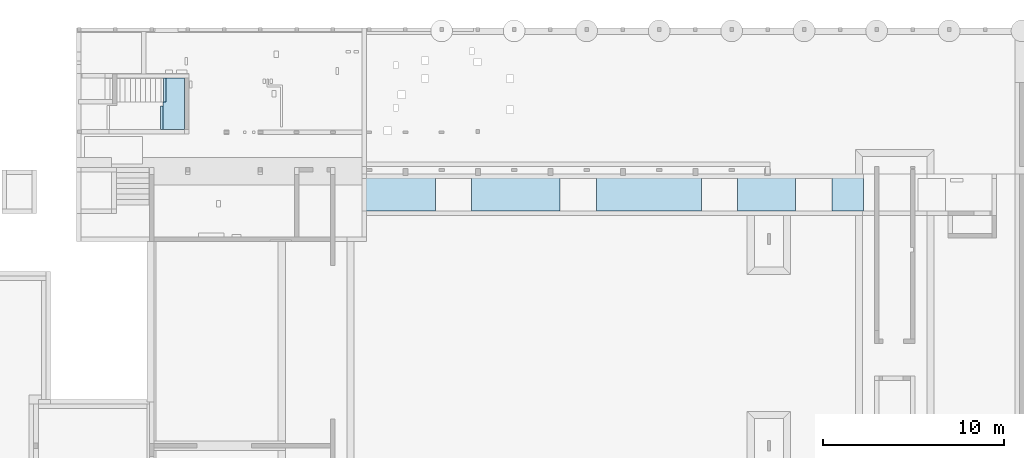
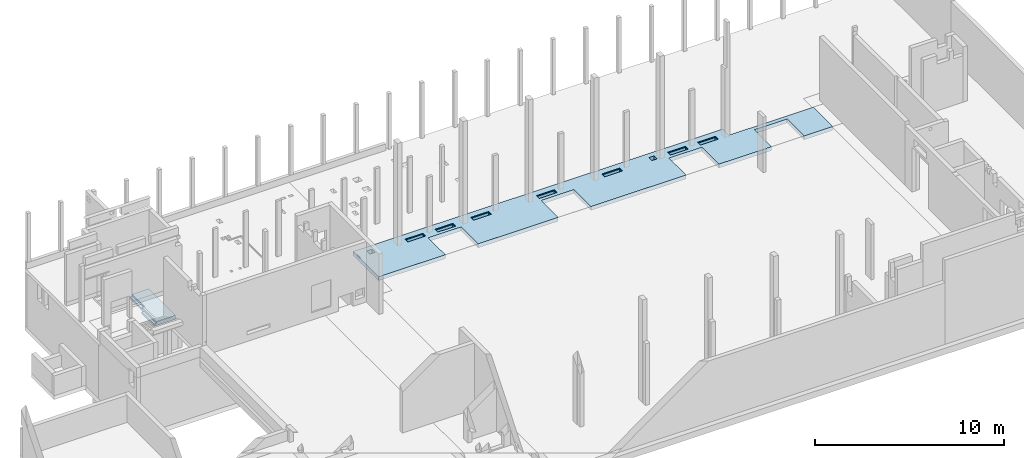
# One storey, part 11 of 12: 2 slabs, 24 openings.
"""IFC2X3 building model written with IfcOpenShell, lengths in metres."""

from ifc_helpers import new_model, entity, si_unit, converted_unit, direction, frame, frame_2d, origin, origin_2d_with_axis, place, context, subcontext, project, spatial, rectangle, extrude, faceted_brep, material, layer, layer_set, type_object, element, save


model = new_model("IFC2X3")

# Units and contexts
model_context = context("Model", 3, precision=1e-05, world=frame((30.086303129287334, 2.687674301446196, 462.0)), true_north=direction((0.19008937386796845, 0.9817667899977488)))
body_context = subcontext(model_context, "Body", "Model", "MODEL_VIEW")
ifc_project = project(units=[si_unit("LENGTHUNIT", "METRE"), si_unit("AREAUNIT", "SQUARE_METRE"), converted_unit("PLANEANGLEUNIT", "DEGREE", entity("IfcPlaneAngleMeasure", 0.017453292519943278), si_unit("PLANEANGLEUNIT", "RADIAN"), dimensions=[0, 0, 0, 0, 0, 0, 0]), si_unit("VOLUMEUNIT", "CUBIC_METRE")], contexts=[model_context])

# Site, building, storey
site_placement = place(None, origin())
site = spatial("IfcSite", under=ifc_project, at=site_placement, Name="Default", CompositionType="ELEMENT")
building_placement = place(site_placement, origin())
building = spatial("IfcBuilding", under=site, at=building_placement, CompositionType="ELEMENT")
storey_placement = place(building_placement, frame((0.0, 0.0, -3.800000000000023)))
storey = spatial("IfcBuildingStorey", under=building, at=storey_placement, Name="FB_U01_OKFB", CompositionType="ELEMENT", Elevation=-3.800000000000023)

# Slab, openings
ifc_material = material(Name="WS_CONCRETE_REINFORCED")
ifc_layer = layer(ifc_material, 0.24999999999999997)
ifc_layer_set = layer_set([ifc_layer], Name="Geschossdecke:WS_SLB_CON_250")
slab_type = type_object("IfcSlabType", Name="Geschossdecke:WS_SLB_CON_250", PredefinedType="FLOOR", material=ifc_layer_set)
slab_1_placement = place(storey_placement, origin())
slab_1 = element("IfcSlab", 1, at=slab_1_placement, inside=storey, type_object=slab_type, material=ifc_material, Name="Geschossdecke:WS_SLB_CON_250", ObjectType="Geschossdecke:WS_SLB_CON_250", PredefinedType="FLOOR", context=body_context, shape_type="Brep", body=[
    faceted_brep([(61.705338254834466, -3.5796103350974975, 3.4300000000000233), (61.705338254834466, -1.548227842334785, 3.4300000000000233), (61.705338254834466, -1.3282278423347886, 3.4300000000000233), (61.705338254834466, -0.8796477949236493, 3.4300000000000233), (61.955337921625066, -0.8796477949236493, 3.4300000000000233), (84.23033826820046, -0.8796477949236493, 3.4300000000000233), (84.23033826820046, -1.1296477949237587, 3.4300000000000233), (84.23033826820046, -1.5296477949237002, 3.4300000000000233), (89.33033721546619, -1.5296477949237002, 3.4300000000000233), (89.3803372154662, -1.5296477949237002, 3.4300000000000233), (89.3803372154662, -3.579610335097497, 3.4300000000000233), (89.33033721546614, -3.579610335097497, 3.4300000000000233), (87.64533728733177, -3.579610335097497, 3.4300000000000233), (87.64533728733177, -1.7795710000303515, 3.4300000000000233), (85.64533728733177, -1.7795710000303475, 3.4300000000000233), (85.64533728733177, -3.579610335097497, 3.4300000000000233), (82.44533919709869, -3.579610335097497, 3.4300000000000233), (82.44533919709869, -1.7795710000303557, 3.4300000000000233), (80.44533919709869, -1.7795710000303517, 3.4300000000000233), (80.44533919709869, -3.579610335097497, 3.4300000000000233), (74.64533728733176, -3.579610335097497, 3.4300000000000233), (74.64533728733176, -1.7795710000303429, 3.4300000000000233), (72.64533728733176, -1.7795710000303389, 3.4300000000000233), (72.64533728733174, -3.579610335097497, 3.4300000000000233), (67.76533919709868, -3.579610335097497, 3.4300000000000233), (67.76533919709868, -1.7795710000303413, 3.4300000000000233), (65.76533919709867, -1.779571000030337, 3.4300000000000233), (65.76533919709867, -3.579610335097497, 3.4300000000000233), (62.35533879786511, -1.2095653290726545, 3.4300000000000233), (62.35533879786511, -1.5295653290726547, 3.4300000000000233), (62.67533879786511, -1.5295653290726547, 3.4300000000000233), (62.67533879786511, -1.2095653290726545, 3.4300000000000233), (64.68533996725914, -1.309607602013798, 3.4300000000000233), (64.68533996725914, -1.5296076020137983, 3.4300000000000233), (65.70533996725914, -1.5296076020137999, 3.4300000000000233), (65.70533996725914, -1.3096076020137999, 3.4300000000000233), (66.5053331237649, -1.3096076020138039, 3.4300000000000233), (66.5053331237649, -1.5296076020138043, 3.4300000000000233), (67.5253331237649, -1.5296076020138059, 3.4300000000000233), (67.5253331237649, -1.3096076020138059, 3.4300000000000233), (68.68533442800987, -1.309607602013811, 3.4300000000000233), (68.68533442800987, -1.5296076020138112, 3.4300000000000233), (69.70533442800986, -1.529607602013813, 3.4300000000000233), (69.70533442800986, -1.3096076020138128, 3.4300000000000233), (72.68534044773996, -1.3096076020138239, 3.4300000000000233), (72.68534044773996, -1.5296076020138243, 3.4300000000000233), (73.70534044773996, -1.5296076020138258, 3.4300000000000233), (73.70534044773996, -1.3096076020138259, 3.4300000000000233), (80.6848489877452, -1.3096477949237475, 3.4300000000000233), (80.6848489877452, -1.5296477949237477, 3.4300000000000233), (81.70484898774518, -1.5296477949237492, 3.4300000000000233), (81.70484898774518, -1.3096477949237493, 3.4300000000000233), (82.50533312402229, -1.3096477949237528, 3.4300000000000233), (82.50533312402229, -1.5296477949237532, 3.4300000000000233), (83.52533312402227, -1.5296477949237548, 3.4300000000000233), (83.52533312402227, -1.3096477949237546, 3.4300000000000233), (79.53533854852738, -1.209574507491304, 3.4300000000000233), (79.53533854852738, -1.5295745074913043, 3.4300000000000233), (79.85533854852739, -1.5295745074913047, 3.4300000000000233), (79.85533854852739, -1.2095745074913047, 3.4300000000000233), (76.68534019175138, -1.309607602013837, 3.4300000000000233), (76.68534019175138, -1.5296076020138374, 3.4300000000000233), (77.70534019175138, -1.529607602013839, 3.4300000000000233), (77.70534019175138, -1.3096076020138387, 3.4300000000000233), (89.3803372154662, -3.579610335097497, 3.6800000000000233), (89.3803372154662, -1.5296477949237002, 3.6800000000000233), (89.33033721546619, -1.5296477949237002, 3.6800000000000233), (84.23033826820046, -1.5296477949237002, 3.6800000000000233), (84.23033826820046, -0.8796477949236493, 3.6800000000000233), (61.955337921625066, -0.8796477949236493, 3.6800000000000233), (61.705338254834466, -0.8796477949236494, 3.6800000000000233), (61.705338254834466, -1.2882278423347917, 3.6800000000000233), (61.745338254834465, -1.2882278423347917, 3.6800000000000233), (61.745338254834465, -1.5882278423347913, 3.6800000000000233), (61.705338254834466, -1.5882278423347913, 3.6800000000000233), (61.705338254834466, -3.5796103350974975, 3.6800000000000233), (65.76533919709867, -3.5796103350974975, 3.6800000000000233), (65.76533919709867, -1.7795710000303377, 3.6800000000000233), (67.76533919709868, -1.7795710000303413, 3.6800000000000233), (67.76533919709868, -3.579610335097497, 3.6800000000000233), (72.64533728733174, -3.579610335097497, 3.6800000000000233), (72.64533728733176, -1.7795710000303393, 3.6800000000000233), (74.64533728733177, -1.7795710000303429, 3.6800000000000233), (74.64533728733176, -3.579610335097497, 3.6800000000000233), (80.44533919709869, -3.579610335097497, 3.6800000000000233), (80.44533919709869, -1.7795710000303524, 3.6800000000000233), (82.44533919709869, -1.7795710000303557, 3.6800000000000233), (82.44533919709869, -3.579610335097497, 3.6800000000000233), (85.64533728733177, -3.579610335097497, 3.6800000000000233), (85.64533728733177, -1.779571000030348, 3.6800000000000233), (87.64533728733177, -1.7795710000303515, 3.6800000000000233), (87.64533728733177, -3.579610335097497, 3.6800000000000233), (89.33033721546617, -3.579610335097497, 3.6800000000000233), (62.35533879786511, -1.5295653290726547, 3.6800000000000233), (62.35533879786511, -1.2095653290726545, 3.6800000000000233), (62.67533879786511, -1.2095653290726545, 3.6800000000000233), (62.67533879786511, -1.5295653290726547, 3.6800000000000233), (79.53533854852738, -1.5295745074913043, 3.6800000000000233), (79.53533854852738, -1.2095745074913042, 3.6800000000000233), (79.85533854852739, -1.2095745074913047, 3.6800000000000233), (79.85533854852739, -1.5295745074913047, 3.6800000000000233), (72.64534044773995, -1.2696076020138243, 3.6800000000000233), (73.74534044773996, -1.2696076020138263, 3.6800000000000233), (73.74534044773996, -1.5696076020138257, 3.6800000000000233), (72.64534044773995, -1.5696076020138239, 3.6800000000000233), (68.64533442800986, -1.2696076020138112, 3.6800000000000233), (69.74533442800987, -1.2696076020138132, 3.6800000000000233), (69.74533442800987, -1.569607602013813, 3.6800000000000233), (68.64533442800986, -1.5696076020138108, 3.6800000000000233), (64.64533996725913, -1.2696076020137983, 3.6800000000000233), (65.74533996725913, -1.2696076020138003, 3.6800000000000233), (65.74533996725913, -1.5696076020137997, 3.6800000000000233), (64.64533996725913, -1.569607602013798, 3.6800000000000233), (66.46533312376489, -1.2696076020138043, 3.6800000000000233), (67.5653331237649, -1.2696076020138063, 3.6800000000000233), (67.5653331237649, -1.5696076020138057, 3.6800000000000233), (66.46533312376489, -1.569607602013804, 3.6800000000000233), (82.4653331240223, -1.2696477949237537, 3.6800000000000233), (83.56533312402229, -1.2696477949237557, 3.6800000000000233), (83.56533312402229, -1.5696477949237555, 3.6800000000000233), (82.4653331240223, -1.5696477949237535, 3.6800000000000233), (80.6448489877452, -1.2696477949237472, 3.6800000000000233), (81.74484898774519, -1.2696477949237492, 3.6800000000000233), (81.74484898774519, -1.5696477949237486, 3.6800000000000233), (80.6448489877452, -1.5696477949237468, 3.6800000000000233), (76.64534019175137, -1.2696076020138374, 3.6800000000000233), (77.74534019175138, -1.2696076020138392, 3.6800000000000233), (77.74534019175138, -1.5696076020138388, 3.6800000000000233), (76.64534019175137, -1.5696076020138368, 3.6800000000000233), (61.705338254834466, -1.5882278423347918, 3.639999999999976), (61.705338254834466, -1.5482278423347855, 3.639999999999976), (61.705338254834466, -1.328227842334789, 3.639999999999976), (61.705338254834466, -1.2882278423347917, 3.639999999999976), (64.68533996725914, -1.3096076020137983, 3.639999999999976), (64.68533996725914, -1.5296076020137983, 3.639999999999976), (65.70533996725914, -1.5296076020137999, 3.639999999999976), (65.70533996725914, -1.3096076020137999, 3.639999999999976), (66.5053331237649, -1.309607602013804, 3.639999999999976), (66.5053331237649, -1.5296076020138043, 3.639999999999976), (67.5253331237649, -1.5296076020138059, 3.639999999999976), (67.5253331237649, -1.3096076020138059, 3.639999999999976), (68.68533442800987, -1.3096076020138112, 3.639999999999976), (68.68533442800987, -1.5296076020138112, 3.639999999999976), (69.70533442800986, -1.529607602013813, 3.639999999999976), (69.70533442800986, -1.3096076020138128, 3.639999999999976), (72.68534044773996, -1.3096076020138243, 3.639999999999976), (72.68534044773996, -1.5296076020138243, 3.639999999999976), (73.70534044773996, -1.5296076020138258, 3.639999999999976), (73.70534044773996, -1.3096076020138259, 3.639999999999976), (80.6848489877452, -1.3096477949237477, 3.639999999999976), (80.6848489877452, -1.5296477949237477, 3.639999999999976), (81.70484898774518, -1.5296477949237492, 3.639999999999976), (81.70484898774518, -1.3096477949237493, 3.639999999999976), (82.50533312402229, -1.309647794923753, 3.639999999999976), (82.50533312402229, -1.5296477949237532, 3.639999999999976), (83.52533312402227, -1.5296477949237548, 3.639999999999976), (83.52533312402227, -1.3096477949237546, 3.639999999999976), (73.74534044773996, -1.2696076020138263, 3.639999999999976), (72.64534044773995, -1.2696076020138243, 3.639999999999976), (72.64534044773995, -1.569607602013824, 3.639999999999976), (73.74534044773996, -1.5696076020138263, 3.639999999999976), (69.74533442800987, -1.2696076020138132, 3.639999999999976), (68.64533442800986, -1.2696076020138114, 3.639999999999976), (68.64533442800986, -1.5696076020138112, 3.639999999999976), (69.74533442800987, -1.5696076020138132, 3.639999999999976), (65.74533996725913, -1.2696076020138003, 3.639999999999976), (64.64533996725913, -1.2696076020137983, 3.639999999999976), (64.64533996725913, -1.5696076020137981, 3.639999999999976), (65.74533996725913, -1.5696076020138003, 3.639999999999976), (67.5653331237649, -1.2696076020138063, 3.639999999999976), (66.46533312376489, -1.2696076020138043, 3.639999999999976), (66.46533312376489, -1.5696076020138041, 3.639999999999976), (67.5653331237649, -1.5696076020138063, 3.639999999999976), (83.56533312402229, -1.2696477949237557, 3.639999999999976), (82.4653331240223, -1.2696477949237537, 3.639999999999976), (82.4653331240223, -1.5696477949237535, 3.639999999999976), (83.56533312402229, -1.5696477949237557, 3.639999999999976), (81.74484898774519, -1.2696477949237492, 3.639999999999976), (80.6448489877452, -1.2696477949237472, 3.639999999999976), (80.6448489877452, -1.569647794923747, 3.639999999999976), (81.74484898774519, -1.5696477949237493, 3.639999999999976), (77.74534019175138, -1.2696076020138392, 3.639999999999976), (76.64534019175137, -1.2696076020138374, 3.639999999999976), (76.64534019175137, -1.5696076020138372, 3.639999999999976), (77.74534019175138, -1.5696076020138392, 3.639999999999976), (76.68534019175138, -1.5296076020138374, 3.639999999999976), (76.68534019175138, -1.309607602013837, 3.639999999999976), (77.70534019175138, -1.3096076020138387, 3.639999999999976), (77.70534019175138, -1.5296076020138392, 3.639999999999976), (61.745338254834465, -1.5882278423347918, 3.639999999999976), (61.745338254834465, -1.2882278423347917, 3.639999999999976)], [[[0, 1, 2, 3, 4, 5, 6, 7, 8, 9, 10, 11, 12, 13, 14, 15, 16, 17, 18, 19, 20, 21, 22, 23, 24, 25, 26, 27], [28, 29, 30, 31], [32, 33, 34, 35], [36, 37, 38, 39], [40, 41, 42, 43], [44, 45, 46, 47], [48, 49, 50, 51], [52, 53, 54, 55], [56, 57, 58, 59], [60, 61, 62, 63]], [[64, 65, 66, 67, 68, 69, 70, 71, 72, 73, 74, 75, 76, 77, 78, 79, 80, 81, 82, 83, 84, 85, 86, 87, 88, 89, 90, 91, 92], [93, 94, 95, 96], [97, 98, 99, 100], [101, 102, 103, 104], [105, 106, 107, 108], [109, 110, 111, 112], [113, 114, 115, 116], [117, 118, 119, 120], [121, 122, 123, 124], [125, 126, 127, 128]], [[3, 2, 1, 0, 75, 74, 129, 130, 131, 132, 71, 70]], [[3, 70, 69, 68, 5, 4]], [[10, 9, 65, 64]], [[7, 6, 5, 68, 67]], [[9, 8, 7, 67, 66, 65]], [[16, 15, 88, 87]], [[14, 89, 88, 15]], [[90, 13, 12, 91]], [[89, 14, 13, 90]], [[18, 85, 84, 19]], [[86, 17, 16, 87]], [[85, 18, 17, 86]], [[22, 81, 80, 23]], [[82, 21, 20, 83]], [[81, 22, 21, 82]], [[26, 77, 76, 27]], [[78, 25, 24, 79]], [[77, 26, 25, 78]], [[94, 28, 31, 95]], [[28, 94, 93, 29]], [[29, 93, 96, 30]], [[95, 31, 30, 96]], [[33, 32, 133, 134]], [[34, 33, 134, 135]], [[35, 34, 135, 136]], [[32, 35, 136, 133]], [[37, 36, 137, 138]], [[38, 37, 138, 139]], [[39, 38, 139, 140]], [[36, 39, 140, 137]], [[41, 40, 141, 142]], [[42, 41, 142, 143]], [[43, 42, 143, 144]], [[40, 43, 144, 141]], [[45, 44, 145, 146]], [[46, 45, 146, 147]], [[47, 46, 147, 148]], [[44, 47, 148, 145]], [[49, 48, 149, 150]], [[50, 49, 150, 151]], [[51, 50, 151, 152]], [[48, 51, 152, 149]], [[53, 52, 153, 154]], [[54, 53, 154, 155]], [[55, 54, 155, 156]], [[52, 55, 156, 153]], [[97, 57, 56, 98]], [[57, 97, 100, 58]], [[58, 100, 99, 59]], [[98, 56, 59, 99]], [[157, 158, 159, 160], [146, 145, 148, 147]], [[158, 157, 102, 101]], [[159, 158, 101, 104]], [[160, 159, 104, 103]], [[157, 160, 103, 102]], [[161, 162, 163, 164], [142, 141, 144, 143]], [[162, 161, 106, 105]], [[163, 162, 105, 108]], [[164, 163, 108, 107]], [[161, 164, 107, 106]], [[165, 166, 167, 168], [134, 133, 136, 135]], [[166, 165, 110, 109]], [[167, 166, 109, 112]], [[168, 167, 112, 111]], [[165, 168, 111, 110]], [[169, 170, 171, 172], [138, 137, 140, 139]], [[170, 169, 114, 113]], [[171, 170, 113, 116]], [[172, 171, 116, 115]], [[169, 172, 115, 114]], [[173, 174, 175, 176], [154, 153, 156, 155]], [[174, 173, 118, 117]], [[175, 174, 117, 120]], [[176, 175, 120, 119]], [[173, 176, 119, 118]], [[177, 178, 179, 180], [152, 151, 150, 149]], [[178, 177, 122, 121]], [[179, 178, 121, 124]], [[180, 179, 124, 123]], [[177, 180, 123, 122]], [[181, 182, 183, 184], [185, 186, 187, 188]], [[182, 181, 126, 125]], [[183, 182, 125, 128]], [[184, 183, 128, 127]], [[181, 184, 127, 126]], [[60, 186, 185, 61]], [[61, 185, 188, 62]], [[62, 188, 187, 63]], [[186, 60, 63, 187]], [[189, 190, 132, 131, 130, 129]], [[190, 72, 71, 132]], [[73, 189, 129, 74]], [[190, 189, 73, 72]], [[20, 19, 84, 83]], [[24, 23, 80, 79]], [[75, 0, 27, 76]], [[10, 64, 92, 91, 12, 11]]]),
])
opening_1_placement = place(slab_1_placement, origin())
element("IfcOpeningElement", 2, at=opening_1_placement, cuts=slab_1, Name="Geschossdecke:WS_SLB_CON_250", ObjectType="Opening", context=body_context, shape_type="SweptSolid", body=[
    extrude(rectangle(XDim=1.7999999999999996, YDim=1.9999999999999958, at=origin_2d_with_axis()), frame((86.64533728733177, -2.6795710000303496, 3.4300000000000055), z_axis=(0.0, 0.0, 1.0), x_axis=(0.0, -1.0, 0.0)), (0.0, 0.0, 1.0), 0.24999999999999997),
])
opening_2_placement = place(slab_1_placement, origin())
element("IfcOpeningElement", 3, at=opening_2_placement, cuts=slab_1, Name="Geschossdecke:WS_SLB_CON_250", ObjectType="Opening", context=body_context, shape_type="SweptSolid", body=[
    extrude(rectangle(XDim=1.7999999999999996, YDim=1.9999999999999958, at=origin_2d_with_axis()), frame((81.44533919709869, -2.679571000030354, 3.4300000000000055), z_axis=(0.0, 0.0, 1.0), x_axis=(0.0, -1.0, 0.0)), (0.0, 0.0, 1.0), 0.24999999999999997),
])
opening_3_placement = place(slab_1_placement, origin())
element("IfcOpeningElement", 4, at=opening_3_placement, cuts=slab_1, Name="Geschossdecke:WS_SLB_CON_250", ObjectType="Opening", context=body_context, shape_type="SweptSolid", body=[
    extrude(rectangle(XDim=1.7999999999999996, YDim=2.0000000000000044, at=frame_2d((0.0, -8.715250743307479e-15), x_axis=(1.0, 0.0))), frame((73.64533728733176, -2.679571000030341, 3.4300000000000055), z_axis=(0.0, 0.0, 1.0), x_axis=(0.0, -1.0, 0.0)), (0.0, 0.0, 1.0), 0.24999999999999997),
])
opening_4_placement = place(slab_1_placement, origin())
element("IfcOpeningElement", 5, at=opening_4_placement, cuts=slab_1, Name="Geschossdecke:WS_SLB_CON_250", ObjectType="Opening", context=body_context, shape_type="SweptSolid", body=[
    extrude(rectangle(XDim=1.7999999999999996, YDim=2.0000000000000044, at=frame_2d((5.551115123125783e-16, 0.0), x_axis=(1.0, 0.0))), frame((66.76533919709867, -2.679571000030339, 3.4300000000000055), z_axis=(0.0, 0.0, 1.0), x_axis=(0.0, -1.0, 0.0)), (0.0, 0.0, 1.0), 0.24999999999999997),
])
opening_5_placement = place(slab_1_placement, origin())
element("IfcOpeningElement", 6, at=opening_5_placement, cuts=slab_1, Name="Geschossdecke:WS_SLB_CON_250", ObjectType="Opening", context=body_context, shape_type="SweptSolid", body=[
    extrude(rectangle(XDim=1.0999999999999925, YDim=0.30000000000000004, at=origin_2d_with_axis()), frame((81.1948489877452, -1.419647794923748, 3.639999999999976), z_axis=(0.0, 0.0, 1.0), x_axis=(-1.0, 0.0, 0.0)), (0.0, 0.0, 1.0), 0.04000000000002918),
])
opening_6_placement = place(slab_1_placement, origin())
element("IfcOpeningElement", 7, at=opening_6_placement, cuts=slab_1, Name="Geschossdecke:WS_SLB_CON_250", ObjectType="Opening", context=body_context, shape_type="SweptSolid", body=[
    extrude(rectangle(XDim=1.100000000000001, YDim=0.30000000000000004, at=frame_2d((-4.3298697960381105e-15, 0.0), x_axis=(1.0, 0.0))), frame((61.19533825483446, -1.4382278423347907, 3.639999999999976), z_axis=(0.0, 0.0, 1.0), x_axis=(-1.0, 0.0, 0.0)), (0.0, 0.0, 1.0), 0.04000000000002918),
])
opening_7_placement = place(slab_1_placement, origin())
element("IfcOpeningElement", 8, at=opening_7_placement, cuts=slab_1, Name="Geschossdecke:WS_SLB_CON_250", ObjectType="Opening", context=body_context, shape_type="SweptSolid", body=[
    extrude(rectangle(XDim=0.22000000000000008, YDim=1.0199999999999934, at=frame_2d((0.0, -8.659739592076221e-15), x_axis=(1.0, 0.0))), frame((81.1948489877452, -1.4196477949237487, 3.4300000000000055), z_axis=(0.0, 0.0, 1.0), x_axis=(0.0, -1.0, 0.0)), (0.0, 0.0, 1.0), 0.24999999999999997),
])
opening_8_placement = place(slab_1_placement, origin())
element("IfcOpeningElement", 9, at=opening_8_placement, cuts=slab_1, Name="Geschossdecke:WS_SLB_CON_250", ObjectType="Opening", context=body_context, shape_type="SweptSolid", body=[
    extrude(rectangle(XDim=1.0999999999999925, YDim=0.30000000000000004, at=origin_2d_with_axis()), frame((83.01533312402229, -1.4196477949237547, 3.639999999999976), z_axis=(0.0, 0.0, 1.0), x_axis=(-1.0, 0.0, 0.0)), (0.0, 0.0, 1.0), 0.04000000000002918),
])
opening_9_placement = place(slab_1_placement, origin())
element("IfcOpeningElement", 10, at=opening_9_placement, cuts=slab_1, Name="Geschossdecke:WS_SLB_CON_250", ObjectType="Opening", context=body_context, shape_type="SweptSolid", body=[
    extrude(rectangle(XDim=1.100000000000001, YDim=0.30000000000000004, at=frame_2d((4.3298697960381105e-15, 0.0), x_axis=(1.0, 0.0))), frame((65.19533996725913, -1.4196076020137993, 3.639999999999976), z_axis=(0.0, 0.0, 1.0), x_axis=(-1.0, 0.0, 0.0)), (0.0, 0.0, 1.0), 0.04000000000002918),
])
opening_10_placement = place(slab_1_placement, origin())
element("IfcOpeningElement", 11, at=opening_10_placement, cuts=slab_1, Name="Geschossdecke:WS_SLB_CON_250", ObjectType="Opening", context=body_context, shape_type="SweptSolid", body=[
    extrude(rectangle(XDim=1.100000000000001, YDim=0.30000000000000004, at=frame_2d((-4.3298697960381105e-15, 0.0), x_axis=(1.0, 0.0))), frame((67.01533312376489, -1.419607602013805, 3.639999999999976), z_axis=(0.0, 0.0, 1.0), x_axis=(-1.0, 0.0, 0.0)), (0.0, 0.0, 1.0), 0.04000000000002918),
])
opening_11_placement = place(slab_1_placement, origin())
element("IfcOpeningElement", 12, at=opening_11_placement, cuts=slab_1, Name="Geschossdecke:WS_SLB_CON_250", ObjectType="Opening", context=body_context, shape_type="SweptSolid", body=[
    extrude(rectangle(XDim=1.100000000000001, YDim=0.30000000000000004, at=frame_2d((4.3298697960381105e-15, 0.0), x_axis=(1.0, 0.0))), frame((69.19533442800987, -1.4196076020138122, 3.639999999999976), z_axis=(0.0, 0.0, 1.0), x_axis=(-1.0, 0.0, 0.0)), (0.0, 0.0, 1.0), 0.04000000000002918),
])
opening_12_placement = place(slab_1_placement, origin())
element("IfcOpeningElement", 13, at=opening_12_placement, cuts=slab_1, Name="Geschossdecke:WS_SLB_CON_250", ObjectType="Opening", context=body_context, shape_type="SweptSolid", body=[
    extrude(rectangle(XDim=1.100000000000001, YDim=0.30000000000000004, at=frame_2d((4.3298697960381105e-15, 0.0), x_axis=(1.0, 0.0))), frame((73.19534044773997, -1.4196076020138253, 3.639999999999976), z_axis=(0.0, 0.0, 1.0), x_axis=(-1.0, 0.0, 0.0)), (0.0, 0.0, 1.0), 0.04000000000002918),
])
opening_13_placement = place(slab_1_placement, origin())
element("IfcOpeningElement", 14, at=opening_13_placement, cuts=slab_1, Name="Geschossdecke:WS_SLB_CON_250", ObjectType="Opening", context=body_context, shape_type="SweptSolid", body=[
    extrude(rectangle(XDim=0.22000000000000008, YDim=1.020000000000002, at=frame_2d((0.0, -4.3298697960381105e-15), x_axis=(1.0, 0.0))), frame((73.19534044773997, -1.4196076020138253, 3.4300000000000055), z_axis=(0.0, 0.0, 1.0), x_axis=(0.0, -1.0, 0.0)), (0.0, 0.0, 1.0), 0.24999999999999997),
])
opening_14_placement = place(slab_1_placement, origin())
element("IfcOpeningElement", 15, at=opening_14_placement, cuts=slab_1, Name="Geschossdecke:WS_SLB_CON_250", ObjectType="Opening", context=body_context, shape_type="SweptSolid", body=[
    extrude(rectangle(XDim=0.22000000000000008, YDim=1.020000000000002, at=frame_2d((0.0, -4.3298697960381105e-15), x_axis=(1.0, 0.0))), frame((69.19533442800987, -1.4196076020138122, 3.4300000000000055), z_axis=(0.0, 0.0, 1.0), x_axis=(0.0, -1.0, 0.0)), (0.0, 0.0, 1.0), 0.24999999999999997),
])
opening_15_placement = place(slab_1_placement, origin())
element("IfcOpeningElement", 16, at=opening_15_placement, cuts=slab_1, Name="Geschossdecke:WS_SLB_CON_250", ObjectType="Opening", context=body_context, shape_type="SweptSolid", body=[
    extrude(rectangle(XDim=0.22000000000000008, YDim=1.020000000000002, at=frame_2d((0.0, -4.3298697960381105e-15), x_axis=(1.0, 0.0))), frame((67.0153331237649, -1.419607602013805, 3.4300000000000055), z_axis=(0.0, 0.0, 1.0), x_axis=(0.0, -1.0, 0.0)), (0.0, 0.0, 1.0), 0.24999999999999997),
])
opening_16_placement = place(slab_1_placement, origin())
element("IfcOpeningElement", 17, at=opening_16_placement, cuts=slab_1, Name="Geschossdecke:WS_SLB_CON_250", ObjectType="Opening", context=body_context, shape_type="SweptSolid", body=[
    extrude(rectangle(XDim=0.22000000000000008, YDim=1.020000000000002, at=frame_2d((0.0, 4.3298697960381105e-15), x_axis=(1.0, 0.0))), frame((65.19533996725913, -1.4196076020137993, 3.4300000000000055), z_axis=(0.0, 0.0, 1.0), x_axis=(0.0, -1.0, 0.0)), (0.0, 0.0, 1.0), 0.24999999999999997),
])
opening_17_placement = place(slab_1_placement, origin())
element("IfcOpeningElement", 18, at=opening_17_placement, cuts=slab_1, Name="Geschossdecke:WS_SLB_CON_250", ObjectType="Opening", context=body_context, shape_type="SweptSolid", body=[
    extrude(rectangle(XDim=0.22000000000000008, YDim=1.0199999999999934, at=frame_2d((0.0, -8.659739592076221e-15), x_axis=(1.0, 0.0))), frame((83.01533312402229, -1.419647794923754, 3.4300000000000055), z_axis=(0.0, 0.0, 1.0), x_axis=(0.0, -1.0, 0.0)), (0.0, 0.0, 1.0), 0.24999999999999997),
])
opening_18_placement = place(slab_1_placement, origin())
element("IfcOpeningElement", 19, at=opening_18_placement, cuts=slab_1, Name="Geschossdecke:WS_SLB_CON_250", ObjectType="Opening", context=body_context, shape_type="SweptSolid", body=[
    extrude(rectangle(XDim=0.31999999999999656, YDim=0.3200000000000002, at=frame_2d((0.0, 6.938893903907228e-17), x_axis=(1.0, 0.0))), frame((62.515338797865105, -1.3695653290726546, 3.4300000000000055), z_axis=(0.0, 0.0, 1.0), x_axis=(-1.0, 0.0, 0.0)), (0.0, 0.0, 1.0), 0.24999999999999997),
])
opening_19_placement = place(slab_1_placement, origin())
element("IfcOpeningElement", 20, at=opening_19_placement, cuts=slab_1, Name="Geschossdecke:WS_SLB_CON_250", ObjectType="Opening", context=body_context, shape_type="SweptSolid", body=[
    extrude(rectangle(XDim=0.31999999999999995, YDim=0.31999999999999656, at=frame_2d((-6.938893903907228e-17, 0.0), x_axis=(1.0, 0.0))), frame((79.69533854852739, -1.3695745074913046, 3.4300000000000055), z_axis=(0.0, 0.0, 1.0), x_axis=(0.0, -1.0, 0.0)), (0.0, 0.0, 1.0), 0.24999999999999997),
])
opening_20_placement = place(slab_1_placement, origin())
element("IfcOpeningElement", 21, at=opening_20_placement, cuts=slab_1, Name="Geschossdecke:WS_SLB_CON_250", ObjectType="Opening", context=body_context, shape_type="SweptSolid", body=[
    extrude(rectangle(XDim=0.22000000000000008, YDim=1.020000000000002, at=frame_2d((0.0, -4.3298697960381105e-15), x_axis=(1.0, 0.0))), frame((77.19534019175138, -1.4196076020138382, 3.4300000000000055), z_axis=(0.0, 0.0, 1.0), x_axis=(0.0, -1.0, 0.0)), (0.0, 0.0, 1.0), 0.24999999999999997),
])
opening_21_placement = place(slab_1_placement, origin())
element("IfcOpeningElement", 22, at=opening_21_placement, cuts=slab_1, Name="Geschossdecke:WS_SLB_CON_250", ObjectType="Opening", context=body_context, shape_type="SweptSolid", body=[
    extrude(rectangle(XDim=1.100000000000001, YDim=0.30000000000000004, at=frame_2d((-4.3298697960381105e-15, 0.0), x_axis=(1.0, 0.0))), frame((77.19534019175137, -1.4196076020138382, 3.639999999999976), z_axis=(0.0, 0.0, 1.0), x_axis=(-1.0, 0.0, 0.0)), (0.0, 0.0, 1.0), 0.04000000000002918),
])
opening_22_placement = place(slab_1_placement, origin())
element("IfcOpeningElement", 23, at=opening_22_placement, cuts=slab_1, Name="Geschossdecke:WS_SLB_CON_250", ObjectType="Opening", context=body_context, shape_type="SweptSolid", body=[
    extrude(rectangle(XDim=1.0199999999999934, YDim=0.21999999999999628, at=frame_2d((0.0, 1.3877787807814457e-16), x_axis=(1.0, 0.0))), frame((61.19533825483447, -1.4382278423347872, 3.4300000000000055), z_axis=(0.0, 0.0, 1.0), x_axis=(-1.0, 0.0, 0.0)), (0.0, 0.0, 1.0), 0.24999999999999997),
])

slab_2_placement = place(storey_placement, origin())
slab_2 = element("IfcSlab", 24, at=slab_2_placement, inside=storey, type_object=slab_type, material=ifc_material, Name="Geschossdecke:WS_SLB_CON_250", ObjectType="Geschossdecke:WS_SLB_CON_250", PredefinedType="FLOOR", context=body_context, shape_type="Brep", body=[
    faceted_brep([(51.915336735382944, 3.745391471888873, 1.6550000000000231), (51.915336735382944, 0.9053516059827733, 1.6550000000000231), (50.60033673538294, 0.9053516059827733, 1.6550000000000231), (50.60033673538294, 2.212851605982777, 1.6550000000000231), (50.74033673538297, 2.2128516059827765, 1.6550000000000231), (50.74033673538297, 2.4253914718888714, 1.6550000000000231), (50.760336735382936, 2.4253914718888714, 1.6550000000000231), (50.760336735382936, 3.745391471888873, 1.6550000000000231), (51.915336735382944, 0.9053516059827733, 1.9050000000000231), (51.915336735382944, 3.745391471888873, 1.9050000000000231), (50.900336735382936, 3.745391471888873, 1.9050000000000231), (50.900336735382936, 2.4253914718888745, 1.9050000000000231), (50.74033673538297, 2.4253914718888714, 1.9050000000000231), (50.74033673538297, 0.9053516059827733, 1.9050000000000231), (50.74033673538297, 0.9053516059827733, 1.784999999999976), (50.60033673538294, 0.9053516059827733, 1.784999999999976), (50.60033673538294, 2.212851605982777, 1.784999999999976), (50.760336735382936, 3.745391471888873, 1.784999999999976), (50.900336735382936, 3.745391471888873, 1.7849999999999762), (50.74033673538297, 2.2128516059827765, 1.784999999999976), (50.900336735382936, 2.4253914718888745, 1.784999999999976), (50.760336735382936, 2.4253914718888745, 1.784999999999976)], [[[0, 1, 2, 3, 4, 5, 6, 7]], [[8, 9, 10, 11, 12, 13]], [[1, 0, 9, 8]], [[2, 1, 8, 13, 14, 15]], [[3, 2, 15, 16]], [[0, 7, 17, 18, 10, 9]], [[14, 19, 16, 15]], [[20, 18, 17, 21]], [[18, 20, 11, 10]], [[7, 6, 21, 17]], [[4, 3, 16, 19]], [[19, 14, 13, 12, 5, 4]], [[6, 5, 12, 11, 20, 21]]]),
])
opening_23_placement = place(slab_2_placement, origin())
element("IfcOpeningElement", 25, at=opening_23_placement, cuts=slab_2, Name="Geschossdecke:WS_SLB_CON_250", ObjectType="Opening", context=body_context, shape_type="SweptSolid", body=[
    extrude(rectangle(XDim=1.3075000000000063, YDim=0.14000000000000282, at=frame_2d((5.551115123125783e-17, 0.0), x_axis=(1.0, 0.0))), frame((50.67033673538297, 1.5591016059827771, 1.784999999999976), z_axis=(0.0, 0.0, 1.0), x_axis=(0.0, 1.0, 0.0)), (0.0, 0.0, 1.0), 0.1200000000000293),
])
opening_24_placement = place(slab_2_placement, origin())
element("IfcOpeningElement", 26, at=opening_24_placement, cuts=slab_2, Name="Geschossdecke:WS_SLB_CON_250", ObjectType="Opening", context=body_context, shape_type="SweptSolid", body=[
    extrude(rectangle(XDim=1.3199999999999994, YDim=0.14000000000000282, at=frame_2d((-2.7755575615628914e-16, 0.0), x_axis=(1.0, 0.0))), frame((50.830336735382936, 3.0853914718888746, 1.784999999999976), z_axis=(0.0, 0.0, 1.0), x_axis=(0.0, 1.0, 0.0)), (0.0, 0.0, 1.0), 0.1200000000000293),
])

save(model, "model.ifc")
